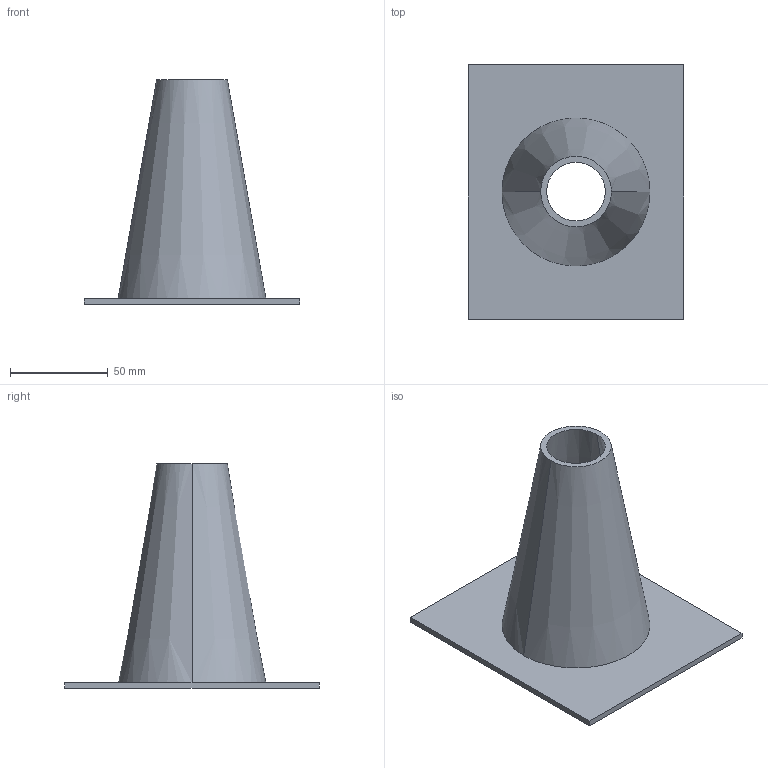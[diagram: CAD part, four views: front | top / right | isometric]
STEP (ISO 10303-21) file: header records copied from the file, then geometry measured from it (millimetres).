
FILE_DESCRIPTION(('CATIA V5 STEP Exchange'),'2;1');
FILE_NAME('C:\_Andres\UNIVERSIDAD\IQS\ASIGNATURAS\DAO\EXF\EXF-15161c\1original\Purroy_Trillo_Ej08-ensambla_v20.stp','2016-03-04T21:37:18+00:00',('none'),('none'),'CATIA Version 5 Release 20 SP 1 (IN-10)','CATIA V5 STEP AP203','none');
FILE_SCHEMA(('CONFIG_CONTROL_DESIGN'));
Length unit declared in the file: millimetre
Products named in the file (1): Purroy_Trillo_Ej08-ensambla_v20
Bounding box: 110 x 130 x 115 mm (x, y, z)
Volume: 87934.2 mm3; surface area: 60354.9 mm2
Topology: 1 solids, 1 shells, 11 faces, 24 edges, 16 vertices
Faces by surface type: plane 7, cone 4
Entity records: 414 total; most frequent: CARTESIAN_POINT 127, ORIENTED_EDGE 48, DIRECTION 44, EDGE_CURVE 24, AXIS2_PLACEMENT_3D 17, VECTOR 16, LINE 16, VERTEX_POINT 16
